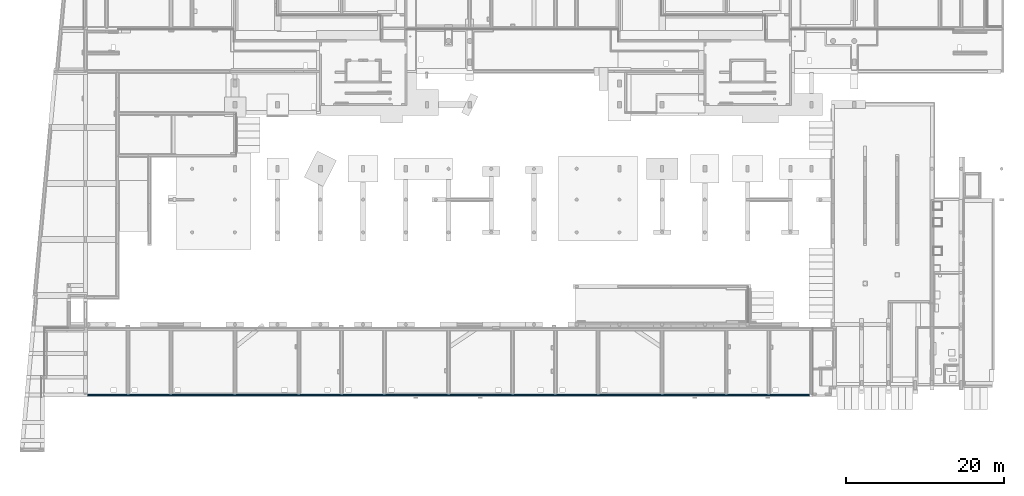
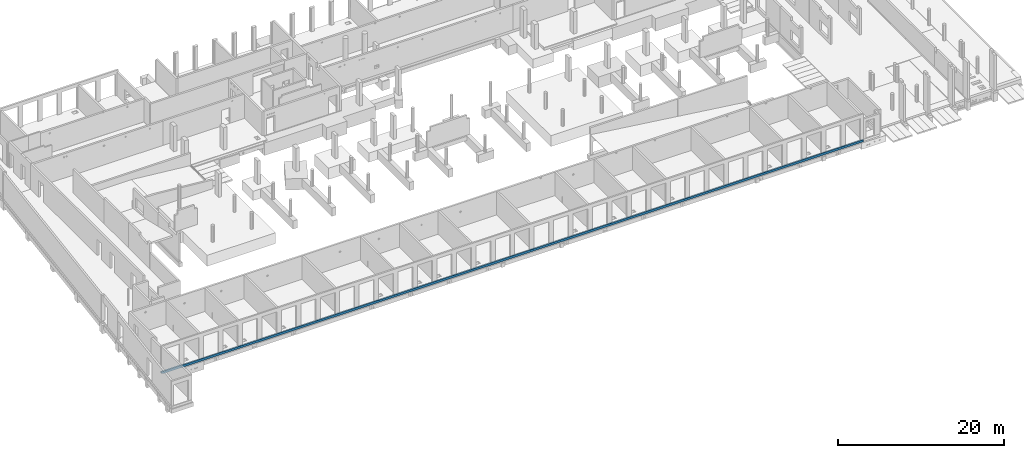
# One storey, part 55 of 60: 1 footing.
"""IFC2X3 building model written with IfcOpenShell, lengths in millimetres."""

from ifc_helpers import new_model, entity, si_unit, converted_unit, derived_unit, direction, frame, origin, place, context, subcontext, project, spatial, faceted_brep, material, element, save


model = new_model("IFC2X3")

# Units and contexts
model_context = context("Model", 3, precision=0.01, world=origin(), true_north=direction((6.12303176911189e-17, 1.0)))
body_context = subcontext(model_context, "Body", "Model", "MODEL_VIEW")
ifc_project = project(units=[si_unit("LENGTHUNIT", "METRE", prefix="MILLI"), si_unit("AREAUNIT", "SQUARE_METRE"), si_unit("VOLUMEUNIT", "CUBIC_METRE"), converted_unit("PLANEANGLEUNIT", "DEGREE", entity("IfcRatioMeasure", 0.0174532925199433), si_unit("PLANEANGLEUNIT", "RADIAN"), dimensions=[0, 0, 0, 0, 0, 0, 0]), si_unit("MASSUNIT", "GRAM", prefix="KILO"), derived_unit("MASSDENSITYUNIT", [(si_unit("MASSUNIT", "GRAM", prefix="KILO"), 1), (si_unit("LENGTHUNIT", "METRE"), -3)]), si_unit("TIMEUNIT", "SECOND"), si_unit("FREQUENCYUNIT", "HERTZ"), si_unit("THERMODYNAMICTEMPERATUREUNIT", "DEGREE_CELSIUS"), derived_unit("THERMALTRANSMITTANCEUNIT", [(si_unit("MASSUNIT", "GRAM", prefix="KILO"), 1), (si_unit("THERMODYNAMICTEMPERATUREUNIT", "KELVIN"), -1), (si_unit("TIMEUNIT", "SECOND"), -3)]), derived_unit("VOLUMETRICFLOWRATEUNIT", [(si_unit("LENGTHUNIT", "METRE"), 3), (si_unit("TIMEUNIT", "SECOND"), -1)]), si_unit("ELECTRICCURRENTUNIT", "AMPERE"), si_unit("ELECTRICVOLTAGEUNIT", "VOLT"), si_unit("POWERUNIT", "WATT"), si_unit("FORCEUNIT", "NEWTON", prefix="KILO"), si_unit("ILLUMINANCEUNIT", "LUX"), si_unit("LUMINOUSFLUXUNIT", "LUMEN"), si_unit("LUMINOUSINTENSITYUNIT", "CANDELA"), derived_unit("USERDEFINED", [(si_unit("MASSUNIT", "GRAM", prefix="KILO"), -1), (si_unit("LENGTHUNIT", "METRE"), -2), (si_unit("TIMEUNIT", "SECOND"), 3), (si_unit("LUMINOUSFLUXUNIT", "LUMEN"), 1)]), derived_unit("LINEARVELOCITYUNIT", [(si_unit("LENGTHUNIT", "METRE"), 1), (si_unit("TIMEUNIT", "SECOND"), -1)]), si_unit("PRESSUREUNIT", "PASCAL"), derived_unit("USERDEFINED", [(si_unit("LENGTHUNIT", "METRE"), -2), (si_unit("MASSUNIT", "GRAM", prefix="KILO"), 1), (si_unit("TIMEUNIT", "SECOND"), -2)])], contexts=[model_context])

# Site, building, storey
site_placement = place(None, origin())
site = spatial("IfcSite", under=ifc_project, at=site_placement, Name="Default", CompositionType="ELEMENT")
building_placement = place(site_placement, origin())
building = spatial("IfcBuilding", under=site, at=building_placement, Name="niet gebruiken", CompositionType="ELEMENT")
storey_placement = place(building_placement, origin())
storey = spatial("IfcBuildingStorey", under=building, at=storey_placement, Name="00 begane grond", CompositionType="ELEMENT", Elevation=0.0)

# Footing
ifc_material = material(Name="NLRS_f2_beton ihwg")
footing_placement = place(storey_placement, frame((2550.0, 200.0, -492.0)))
element("IfcFooting", 1, at=footing_placement, inside=storey, material=ifc_material, Name="NLRS_16.12_SF_WPB_opstort ihwg recht_gen:200x332", ObjectType="NLRS_16.12_SF_WPB_opstort ihwg recht_gen:200x332", PredefinedType="FOOTING_BEAM", context=body_context, shape_type="Brep", body=[
    faceted_brep([(97225.0, 200.0, 0.0), (250.0, 200.0, 0.0), (250.0, 200.0, 90.0), (0.0, 200.0, 90.0), (0.0, 200.0, 332.0), (97225.0, 200.0, 332.0), (97475.0, 0.0, 0.0), (375.0, 0.0, 0.0), (250.0, 0.0, 0.0), (97475.0, 0.0, 332.0), (0.0, 0.0, 332.0), (0.0, 0.0, 90.0), (250.0, 0.0, 90.0)], [[[0, 1, 2, 3, 4, 5]], [[1, 0, 6, 7, 8]], [[8, 7, 6, 9, 10, 11, 12]], [[9, 5, 4, 10]], [[2, 12, 11, 3]], [[12, 2, 1, 8]], [[4, 3, 11, 10]], [[5, 9, 6, 0]]]),
])

save(model, "model.ifc")
